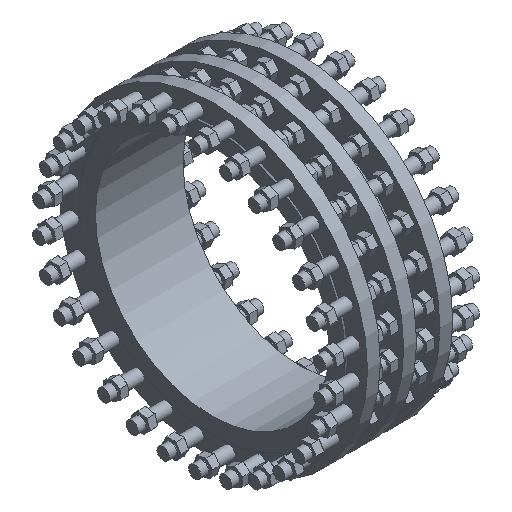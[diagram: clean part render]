
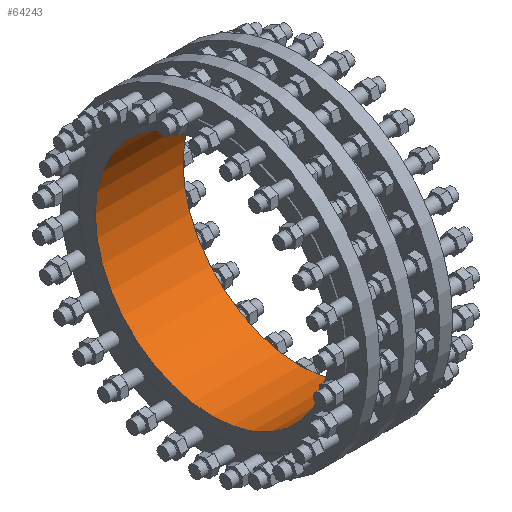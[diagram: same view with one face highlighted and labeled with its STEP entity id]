
A CAD part, isometric view. The second image highlights one B-rep face of the part: STEP entity #64243.
In plain terms, the highlighted cylindrical face has radius 500 mm (diameter 1000 mm), a full revolution.
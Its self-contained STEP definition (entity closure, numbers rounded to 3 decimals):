
#1282 = DIRECTION ( 'NONE',  ( 0., 0., 1. ) ) ;
#2274 = CARTESIAN_POINT ( 'NONE',  ( 700., 0., 0. ) ) ;
#5846 = CIRCLE ( 'NONE', #17453, 500. ) ;
#8512 = CARTESIAN_POINT ( 'NONE',  ( 375., 0., 0. ) ) ;
#9361 = EDGE_LOOP ( 'NONE', ( #53691 ) ) ;
#10594 = FACE_OUTER_BOUND ( 'NONE', #49681, .T. ) ;
#14596 = EDGE_CURVE ( 'NONE', #71127, #71127, #5846, .T. ) ;
#17453 = AXIS2_PLACEMENT_3D ( 'NONE', #74616, #44333, #68961 ) ;
#18582 = AXIS2_PLACEMENT_3D ( 'NONE', #8512, #64240, #1282 ) ;
#22322 = FACE_OUTER_BOUND ( 'NONE', #9361, .T. ) ;
#22456 = CIRCLE ( 'NONE', #18582, 500. ) ;
#33569 = CARTESIAN_POINT ( 'NONE',  ( 0., 0., 500. ) ) ;
#35228 = DIRECTION ( 'NONE',  ( -1., 0., 0. ) ) ;
#41552 = VERTEX_POINT ( 'NONE', #66156 ) ;
#44333 = DIRECTION ( 'NONE',  ( -1., 0., 0. ) ) ;
#45469 = DIRECTION ( 'NONE',  ( 0., 0., 1. ) ) ;
#47898 = AXIS2_PLACEMENT_3D ( 'NONE', #2274, #35228, #45469 ) ;
#49681 = EDGE_LOOP ( 'NONE', ( #56208 ) ) ;
#53691 = ORIENTED_EDGE ( 'NONE', *, *, #78172, .F. ) ;
#56208 = ORIENTED_EDGE ( 'NONE', *, *, #14596, .T. ) ;
#64240 = DIRECTION ( 'NONE',  ( -1., 0., 0. ) ) ;
#64243 = ADVANCED_FACE ( 'NONE', ( #10594, #22322 ), #65925, .F. ) ;
#65925 = CYLINDRICAL_SURFACE ( 'NONE', #47898, 500. ) ;
#66156 = CARTESIAN_POINT ( 'NONE',  ( 375., 0., 500. ) ) ;
#68961 = DIRECTION ( 'NONE',  ( 0., 0., 1. ) ) ;
#71127 = VERTEX_POINT ( 'NONE', #33569 ) ;
#74616 = CARTESIAN_POINT ( 'NONE',  ( 0., 0., 0. ) ) ;
#78172 = EDGE_CURVE ( 'NONE', #41552, #41552, #22456, .T. ) ;
